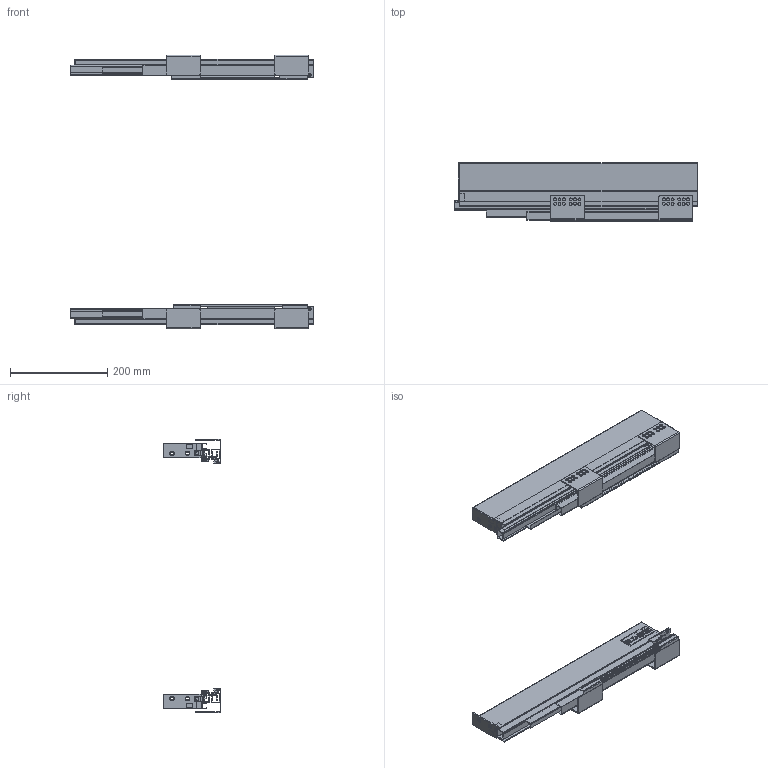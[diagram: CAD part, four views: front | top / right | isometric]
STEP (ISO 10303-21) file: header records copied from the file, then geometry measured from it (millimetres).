
FILE_DESCRIPTION(/* description */ (''),/* implementation_level */ '2;1');
FILE_NAME(/* name */ 'C:\Users\dmitruk\Documents\WORK\\X2\041D0410041F042004100412041B042F042E042904180415\X0\\SLIMBOX\SLIMBOX\SLIMBOX H90 L-500.stp',/* time_stamp */ '2022-04-19T17:16:49+03:00',/* author */ ('dmitruk'),/* organization */ ('AKS'),/* preprocessor_version */ 'ST-DEVELOPER v16.5',/* originating_system */ 'Autodesk Inventor 2017',/* authorisation */ '');
FILE_SCHEMA (('AUTOMOTIVE_DESIGN { 1 0 10303 214 3 1 1 }'));
Length unit declared in the file: millimetre
Products named in the file (12): SLIMBOX 90 мм правый; Боковина SLIMBOX _2; Направляющие \X2\0441043A
0440044B0442043E0433043E\X0\ монтажа \X2\043F
043E043B043D043E0433043E\X0\ \X2\0432044B04340432043804360435043D0438044F
\X0\ SLIMBOX-01; CR SLIMBOX-500; DR SLIMBOX; Крепление \X2\04440430
0441043004340430\X0\ SLIMBOX прав; CR SLIMBOX-500_1; DL SLIMBOX; Крепление \X2\04440430
0441043004340430\X0\ SLIMBOX лев; slim DW; Крепление к 
фасаду; Заглушка SLIMBOX
Assembly tree (14 placements, depth 3):
  SLIMBOX 90 мм правый
    Боковина SLIMBOX _2
    Направляющие \X2\0441043A
0440044B0442043E0433043E\X0\ монтажа \X2\043F
043E043B043D043E0433043E\X0\ \X2\0432044B04340432043804360435043D0438044F
\X0\ SLIMBOX-01
      CR SLIMBOX-500
      DR SLIMBOX
      slim DW  x2
      Крепление \X2\04440430
0441043004340430\X0\ SLIMBOX прав
      CR SLIMBOX-500_1
      DL SLIMBOX
      Крепление \X2\04440430
0441043004340430\X0\ SLIMBOX лев
    Крепление к 
фасаду  x2
    Заглушка SLIMBOX  x2
Bounding box: 500 x 119.5 x 564 mm (x, y, z)
Volume: 554647.2 mm3; surface area: 784405.7 mm2
Topology: 31 solids, 31 shells, 1321 faces, 3608 edges, 2409 vertices
Faces by surface type: plane 959, cylinder 346, cone 16
Full cylindrical faces by diameter (mm): 3 x2, 3.8 x4, 4 x4, 4.8 x4, 6 x48, 7.603 x4, 7.801 x2, 8.085 x2, 10.37 x2, 11 x4, 12.231 x2
Entity records: 34649 total; most frequent: CARTESIAN_POINT 5908, ORIENTED_EDGE 5704, DIRECTION 5609, EDGE_CURVE 2852, LINE 2329, VECTOR 2329, VERTEX_POINT 1939, AXIS2_PLACEMENT_3D 1640
